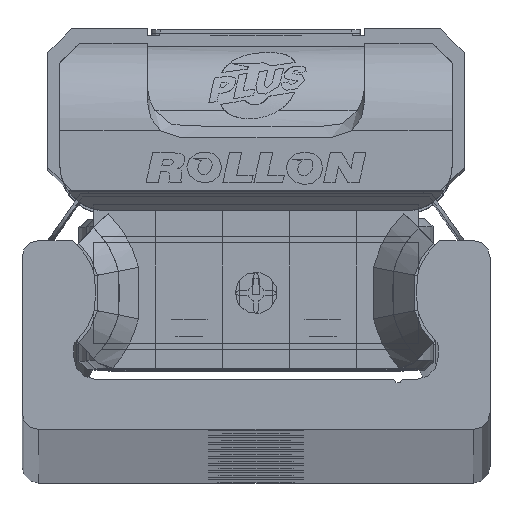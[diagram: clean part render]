
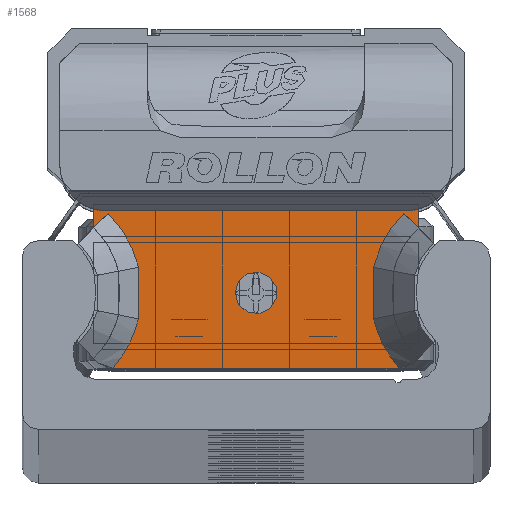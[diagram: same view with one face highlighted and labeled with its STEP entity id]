
A CAD part, top view. The second image highlights one B-rep face of the part: STEP entity #1568.
In plain terms, the highlighted planar face has unit normal (0, 0, 1) as drawn and (0, 0, -1) by its records, which use the part's own axes.
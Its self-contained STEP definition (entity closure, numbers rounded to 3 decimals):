
#1568 = ADVANCED_FACE( '', ( #3490, #3491 ), #3492, .F. );
#3490 = FACE_BOUND( '', #5829, .T. );
#3491 = FACE_OUTER_BOUND( '', #5830, .T. );
#3492 = PLANE( '', #5831 );
#5829 = EDGE_LOOP( '', ( #10169 ) );
#5830 = EDGE_LOOP( '', ( #10170, #10171, #10172, #10173, #10174, #10175, #10176, #10177, #10178, #10179, #10180, #10181, #10182, #10183 ) );
#5831 = AXIS2_PLACEMENT_3D( '', #10184, #10185, #10186 );
#10169 = ORIENTED_EDGE( '', *, *, #14352, .T. );
#10170 = ORIENTED_EDGE( '', *, *, #13516, .F. );
#10171 = ORIENTED_EDGE( '', *, *, #14099, .T. );
#10172 = ORIENTED_EDGE( '', *, *, #14353, .T. );
#10173 = ORIENTED_EDGE( '', *, *, #14354, .T. );
#10174 = ORIENTED_EDGE( '', *, *, #14355, .T. );
#10175 = ORIENTED_EDGE( '', *, *, #14356, .T. );
#10176 = ORIENTED_EDGE( '', *, *, #12904, .T. );
#10177 = ORIENTED_EDGE( '', *, *, #13626, .T. );
#10178 = ORIENTED_EDGE( '', *, *, #14357, .T. );
#10179 = ORIENTED_EDGE( '', *, *, #13914, .T. );
#10180 = ORIENTED_EDGE( '', *, *, #14358, .T. );
#10181 = ORIENTED_EDGE( '', *, *, #12890, .T. );
#10182 = ORIENTED_EDGE( '', *, *, #14359, .T. );
#10183 = ORIENTED_EDGE( '', *, *, #14360, .T. );
#10184 = CARTESIAN_POINT( '', ( 9.7, 4.89, -10.6 ) );
#10185 = DIRECTION( '', ( 0., 0., 1. ) );
#10186 = DIRECTION( '', ( 1., 0., 0. ) );
#12890 = EDGE_CURVE( '', #15294, #15292, #15295, .T. );
#12904 = EDGE_CURVE( '', #15318, #15319, #15320, .T. );
#13516 = EDGE_CURVE( '', #16358, #15009, #16360, .T. );
#13626 = EDGE_CURVE( '', #15319, #16540, #16542, .T. );
#13914 = EDGE_CURVE( '', #16080, #16987, #16989, .T. );
#14099 = EDGE_CURVE( '', #16358, #17259, #17261, .T. );
#14352 = EDGE_CURVE( '', #17592, #17592, #17593, .T. );
#14353 = EDGE_CURVE( '', #17259, #17594, #17595, .T. );
#14354 = EDGE_CURVE( '', #17594, #17596, #17597, .T. );
#14355 = EDGE_CURVE( '', #17596, #15538, #17598, .T. );
#14356 = EDGE_CURVE( '', #15538, #15318, #17599, .T. );
#14357 = EDGE_CURVE( '', #16540, #16080, #17600, .T. );
#14358 = EDGE_CURVE( '', #16987, #15294, #17601, .T. );
#14359 = EDGE_CURVE( '', #15292, #17602, #17603, .T. );
#14360 = EDGE_CURVE( '', #17602, #15009, #17604, .T. );
#15009 = VERTEX_POINT( '', #18366 );
#15292 = VERTEX_POINT( '', #18801 );
#15294 = VERTEX_POINT( '', #18804 );
#15295 = B_SPLINE_CURVE_WITH_KNOTS( '', 2, ( #18805, #18806, #18807 ), .UNSPECIFIED., .F., .F., ( 3, 3 ), ( 0., 1. ), .UNSPECIFIED. );
#15318 = VERTEX_POINT( '', #18842 );
#15319 = VERTEX_POINT( '', #18843 );
#15320 = B_SPLINE_CURVE_WITH_KNOTS( '', 2, ( #18844, #18845, #18846, #18847, #18848 ), .UNSPECIFIED., .F., .F., ( 3, 2, 3 ), ( 0., 0.5, 1. ), .UNSPECIFIED. );
#15538 = VERTEX_POINT( '', #19150 );
#16080 = VERTEX_POINT( '', #19950 );
#16358 = VERTEX_POINT( '', #20312 );
#16360 = LINE( '', #20315, #20316 );
#16540 = VERTEX_POINT( '', #20548 );
#16542 = B_SPLINE_CURVE_WITH_KNOTS( '', 2, ( #20551, #20552, #20553 ), .UNSPECIFIED., .F., .F., ( 3, 3 ), ( 0., 1. ), .UNSPECIFIED. );
#16987 = VERTEX_POINT( '', #21169 );
#16989 = LINE( '', #21172, #21173 );
#17259 = VERTEX_POINT( '', #21557 );
#17261 = CIRCLE( '', #21560, 2.8 );
#17592 = VERTEX_POINT( '', #22057 );
#17593 = CIRCLE( '', #22058, 1.25 );
#17594 = VERTEX_POINT( '', #22059 );
#17595 = LINE( '', #22060, #22061 );
#17596 = VERTEX_POINT( '', #22062 );
#17597 = CIRCLE( '', #22063, 2.8 );
#17598 = LINE( '', #22064, #22065 );
#17599 = LINE( '', #22066, #22067 );
#17600 = B_SPLINE_CURVE_WITH_KNOTS( '', 2, ( #22068, #22069, #22070 ), .UNSPECIFIED., .F., .F., ( 3, 3 ), ( 0., 1. ), .UNSPECIFIED. );
#17601 = B_SPLINE_CURVE_WITH_KNOTS( '', 2, ( #22071, #22072, #22073 ), .UNSPECIFIED., .F., .F., ( 3, 3 ), ( 0.1, 1. ), .UNSPECIFIED. );
#17602 = VERTEX_POINT( '', #22074 );
#17603 = B_SPLINE_CURVE_WITH_KNOTS( '', 2, ( #22075, #22076, #22077 ), .UNSPECIFIED., .F., .F., ( 3, 3 ), ( 0., 1. ), .UNSPECIFIED. );
#17604 = LINE( '', #22078, #22079 );
#18366 = CARTESIAN_POINT( '', ( -9.7, 3.494, -10.6 ) );
#18801 = CARTESIAN_POINT( '', ( -7.031, 1.144, -10.6 ) );
#18804 = CARTESIAN_POINT( '', ( -7.031, -1.944, -10.6 ) );
#18805 = CARTESIAN_POINT( '', ( -7.031, -1.944, -10.6 ) );
#18806 = CARTESIAN_POINT( '', ( -6.929, -0.4, -10.6 ) );
#18807 = CARTESIAN_POINT( '', ( -7.031, 1.144, -10.6 ) );
#18842 = CARTESIAN_POINT( '', ( 8.853, 4.366, -10.6 ) );
#18843 = CARTESIAN_POINT( '', ( 7.031, 1.144, -10.6 ) );
#18844 = CARTESIAN_POINT( '', ( 8.853, 4.366, -10.6 ) );
#18845 = CARTESIAN_POINT( '', ( 8.182, 3.708, -10.6 ) );
#18846 = CARTESIAN_POINT( '', ( 7.715, 2.883, -10.6 ) );
#18847 = CARTESIAN_POINT( '', ( 7.249, 2.058, -10.6 ) );
#18848 = CARTESIAN_POINT( '', ( 7.031, 1.144, -10.6 ) );
#19150 = CARTESIAN_POINT( '', ( 9.7, 3.497, -10.6 ) );
#19950 = CARTESIAN_POINT( '', ( 8.59, -4.893, -10.6 ) );
#20312 = CARTESIAN_POINT( '', ( -9.7, 4.612, -10.6 ) );
#20315 = CARTESIAN_POINT( '', ( -9.7, 4.89, -10.6 ) );
#20316 = VECTOR( '', #24202, 1000. );
#20548 = CARTESIAN_POINT( '', ( 7.031, -1.944, -10.6 ) );
#20551 = CARTESIAN_POINT( '', ( 7.031, 1.144, -10.6 ) );
#20552 = CARTESIAN_POINT( '', ( 6.929, -0.4, -10.6 ) );
#20553 = CARTESIAN_POINT( '', ( 7.031, -1.944, -10.6 ) );
#21169 = CARTESIAN_POINT( '', ( -8.59, -4.893, -10.6 ) );
#21172 = CARTESIAN_POINT( '', ( 9.7, -4.89, -10.6 ) );
#21173 = VECTOR( '', #24768, 1000. );
#21557 = CARTESIAN_POINT( '', ( -8.95, 4.51, -10.6 ) );
#21560 = AXIS2_PLACEMENT_3D( '', #24994, #24995, #24996 );
#22057 = CARTESIAN_POINT( '', ( 1.25, -0.39, -10.6 ) );
#22058 = AXIS2_PLACEMENT_3D( '', #25282, #25283, #25284 );
#22059 = CARTESIAN_POINT( '', ( 8.95, 4.51, -10.6 ) );
#22060 = CARTESIAN_POINT( '', ( 9.7, 4.51, -10.6 ) );
#22061 = VECTOR( '', #25285, 1000. );
#22062 = CARTESIAN_POINT( '', ( 9.7, 4.612, -10.6 ) );
#22063 = AXIS2_PLACEMENT_3D( '', #25286, #25287, #25288 );
#22064 = CARTESIAN_POINT( '', ( 9.7, 4.89, -10.6 ) );
#22065 = VECTOR( '', #25289, 1000. );
#22066 = CARTESIAN_POINT( '', ( 9.7, 3.501, -10.6 ) );
#22067 = VECTOR( '', #25290, 1000. );
#22068 = CARTESIAN_POINT( '', ( 7.031, -1.944, -10.6 ) );
#22069 = CARTESIAN_POINT( '', ( 7.429, -3.615, -10.6 ) );
#22070 = CARTESIAN_POINT( '', ( 8.588, -4.89, -10.6 ) );
#22071 = CARTESIAN_POINT( '', ( -8.587, -4.89, -10.6 ) );
#22072 = CARTESIAN_POINT( '', ( -7.432, -3.63, -10.6 ) );
#22073 = CARTESIAN_POINT( '', ( -7.031, -1.944, -10.6 ) );
#22074 = CARTESIAN_POINT( '', ( -8.853, 4.366, -10.6 ) );
#22075 = CARTESIAN_POINT( '', ( -7.031, 1.144, -10.6 ) );
#22076 = CARTESIAN_POINT( '', ( -7.477, 3.018, -10.6 ) );
#22077 = CARTESIAN_POINT( '', ( -8.853, 4.366, -10.6 ) );
#22078 = CARTESIAN_POINT( '', ( -8.853, 4.366, -10.6 ) );
#22079 = VECTOR( '', #25291, 1000. );
#24202 = DIRECTION( '', ( 0., -1., 0. ) );
#24768 = DIRECTION( '', ( -1., 0., 0. ) );
#24994 = CARTESIAN_POINT( '', ( -8.95, 7.31, -10.6 ) );
#24995 = DIRECTION( '', ( 0., 0., 1. ) );
#24996 = DIRECTION( '', ( 1., 0., 0. ) );
#25282 = CARTESIAN_POINT( '', ( 0., -0.39, -10.6 ) );
#25283 = DIRECTION( '', ( 0., 0., 1. ) );
#25284 = DIRECTION( '', ( 1., 0., 0. ) );
#25285 = DIRECTION( '', ( 1., 0., 0. ) );
#25286 = CARTESIAN_POINT( '', ( 8.95, 7.31, -10.6 ) );
#25287 = DIRECTION( '', ( 0., 0., 1. ) );
#25288 = DIRECTION( '', ( 1., 0., 0. ) );
#25289 = DIRECTION( '', ( 0., -1., 0. ) );
#25290 = DIRECTION( '', ( -0.7, 0.714, 0. ) );
#25291 = DIRECTION( '', ( -0.7, -0.714, 0. ) );
